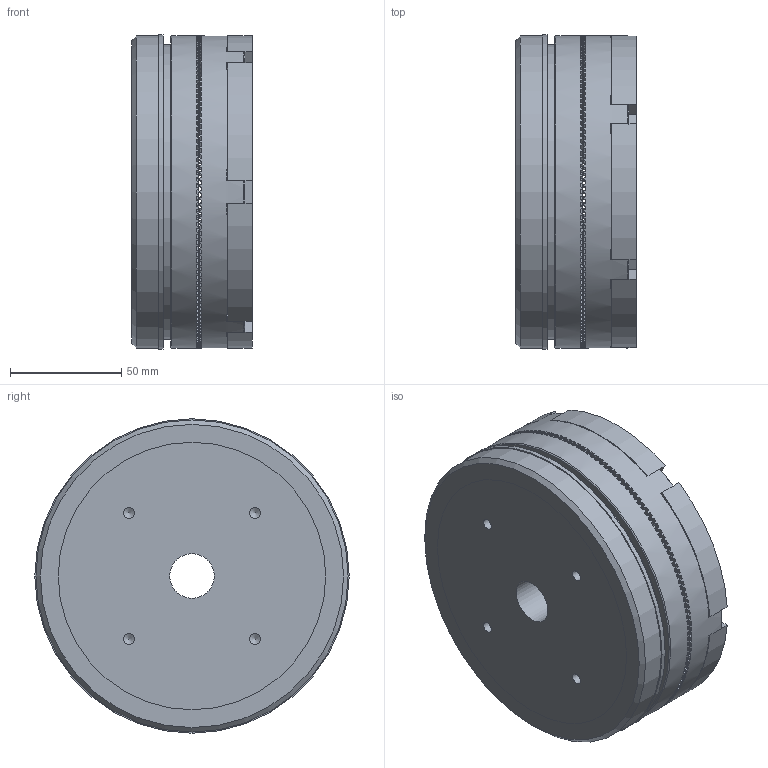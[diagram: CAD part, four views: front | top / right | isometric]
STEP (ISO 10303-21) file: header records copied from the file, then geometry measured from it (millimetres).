
FILE_DESCRIPTION(/* description */ ('','CAx-IF Rec.Pracs.---Representation and Presentation of Product Manufacturing Information (PMI)---4.0---2014-10-13'),/* implementation_level */ '2;1');
FILE_NAME(/* name */ 'X:\INVENTOR\DISEGNI\07_Innesti_Elettmag_a_Dentini\07_01 EC_Z\07_01_140_01 EC140_Z\07_01_140_01 EC140_Z@STEP.stp',/* time_stamp */ '2018-10-04T07:38:40+02:00',/* author */ ('stefano'),/* organization */ (''),/* preprocessor_version */ 'ST-DEVELOPER v17',/* originating_system */ 'Autodesk Inventor 2018',/* authorisation */ '');
FILE_SCHEMA (('AP242_MANAGED_MODEL_BASED_3D_ENGINEERING_MIM_LF { 1 0 10303 442 1 1 4 }'));
Length unit declared in the file: millimetre
Products named in the file (1): 07_01_140_01 EC140_Z_Substitute_1
Bounding box: 54 x 141 x 141 mm (x, y, z)
Volume: 679587.1 mm3; surface area: 103885.4 mm2
Topology: 2 solids, 2 shells, 1486 faces, 4371 edges, 2904 vertices
Faces by surface type: plane 1391, cylinder 75, cone 19, torus 1
Full cylindrical faces by diameter (mm): 4.134 x3, 4.917 x4, 7 x3, 7.5 x3, 12 x3, 13 x3, 20 x1, 70 x3, 92 x1, 112 x1, 126 x1, 127 x1, 128 x1, 132 x1, 140 x3, 141 x1
Entity records: 51182 total; most frequent: DIRECTION 9926, CARTESIAN_POINT 9022, ORIENTED_EDGE 8734, EDGE_CURVE 4367, AXIS2_PLACEMENT_3D 4120, VERTEX_POINT 2904, ELLIPSE 1799, LINE 1686
